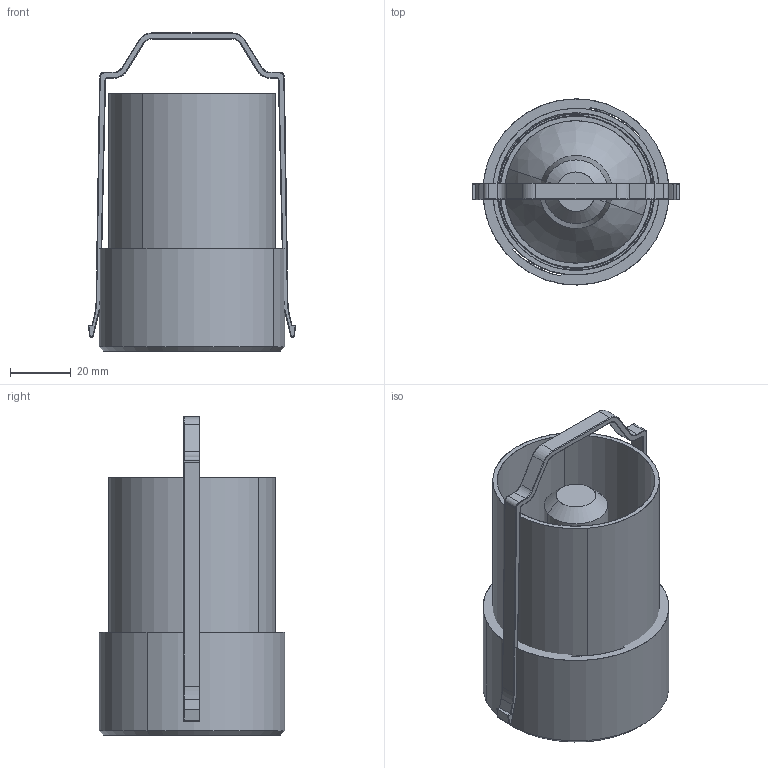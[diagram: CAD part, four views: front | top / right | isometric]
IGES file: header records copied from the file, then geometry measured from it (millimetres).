
Start section: SolidWorks IGES file using analytic representation for surfaces
Global section: file name: C:\Users\anna.bielnik\Desktop\modele 3D tymczasowe\MONO-SLIDE-TRIMLESS\PM\MSR-DOWNLIGHT PM.IGS; native system: SolidWorks 2023; preprocessor: SolidWorks 2023; author: anna.bielnik; date: 230705.095601; units: millimetre
Bounding box: 68.56 x 61.39 x 105 mm (x, y, z)
Surface area: 62005.5 mm2 (no closed solid volume)
Topology: 0 solids, 0 shells, 244 faces, 2559 edges, 2559 vertices
Faces by surface type: revolution 129, bspline 115
